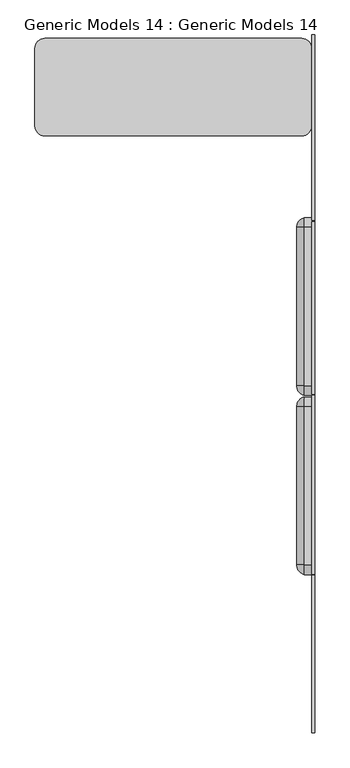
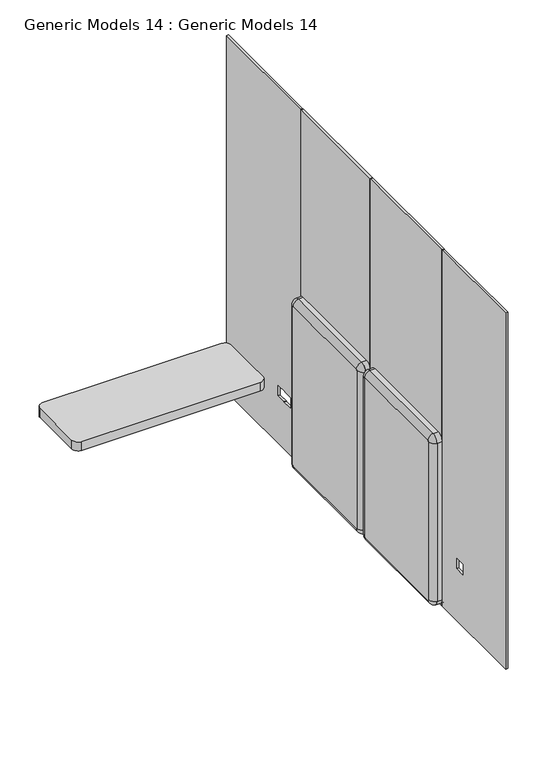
"""IFC4 building model written with IfcOpenShell, lengths in millimetres: proxy geometry, Generic Models 14 : Generic Models 14."""

import ifcopenshell
import ifcopenshell.guid

model = None  # the IFC model being written
_history = None  # IfcOwnerHistory: only IFC2X3 demands one
_inside = {}  # id of a spatial element -> (the spatial element, [elements in it])
_under = {}  # id of a project, library or spatial element -> (it, [spatial elements below it])
_declared = {}  # id of a project -> (the project, [libraries it declares])
_typed = {}  # id of a type object -> (the type object, [elements of that type])
_made_of = {}  # id of a material, layer set ... -> (it, [elements and type objects made of it])


def new_model(schema):
    """Start an empty IFC model of exactly this schema.

    Asked for "IFC4X3", IfcOpenShell would pick the latest addendum, in which some entities
    have other attributes; the version numbers below select the first issue.
    IFC2X3 requires an IfcOwnerHistory on every rooted entity: one is made here for all.
    """
    global model, _history
    if schema == "IFC4X3":
        model = ifcopenshell.file(schema_version=(4, 3, 0, 0))
    else:
        model = ifcopenshell.file(schema=schema)
    _inside.clear()
    _under.clear()
    _declared.clear()
    _typed.clear()
    _made_of.clear()
    _history = None
    if model.schema == "IFC2X3":
        org = make("IfcOrganization", Name="unknown")
        user = make(
            "IfcPersonAndOrganization",
            ThePerson=make("IfcPerson", FamilyName="unknown"),
            TheOrganization=org,
        )
        app = make(
            "IfcApplication",
            ApplicationDeveloper=org,
            Version="unknown",
            ApplicationFullName="unknown",
            ApplicationIdentifier="unknown",
        )
        _history = make(
            "IfcOwnerHistory",
            OwningUser=user,
            OwningApplication=app,
            ChangeAction="ADDED",
            CreationDate=0,
        )
    return model


def make(cls, **values):
    """One entity of the class cls with the attributes given. An attribute that is None is left unset."""
    return model.create_entity(
        cls, **{name: value for name, value in values.items() if value is not None}
    )


def rooted(cls, **values):
    """An entity with a GlobalId (a new one), such as an element, a storey or a relation."""
    return make(cls, GlobalId=ifcopenshell.guid.new(), OwnerHistory=_history, **values)


def si_unit(unit_type, name, prefix=None):
    """IfcSIUnit, for example si_unit("LENGTHUNIT", "METRE", prefix="MILLI")."""
    return make("IfcSIUnit", UnitType=unit_type, Prefix=prefix, Name=name)


def assignment(units):
    """IfcUnitAssignment: the units of a project."""
    return None if units is None else make("IfcUnitAssignment", Units=units)


def point(xyz):
    """IfcCartesianPoint."""
    return None if xyz is None else make("IfcCartesianPoint", Coordinates=xyz)


def direction(xyz):
    """IfcDirection."""
    return None if xyz is None else make("IfcDirection", DirectionRatios=xyz)


def frame(location, z_axis=None, x_axis=None):
    """IfcAxis2Placement3D, a coordinate frame: its origin and axes. An axis left out is left unset."""
    return make(
        "IfcAxis2Placement3D",
        Location=point(location),
        Axis=direction(z_axis),
        RefDirection=direction(x_axis),
    )


def frame_2d(location, x_axis=None):
    """IfcAxis2Placement2D, a coordinate frame in the plane: its origin and x axis."""
    return make(
        "IfcAxis2Placement2D", Location=point(location), RefDirection=direction(x_axis)
    )


def origin():
    """The frame at (0, 0, 0) with its axes left unset."""
    return frame((0.0, 0.0, 0.0))


def origin_with_axes():
    """The frame at (0, 0, 0) with the z axis (0, 0, 1) and the x axis (1, 0, 0) written out."""
    return frame((0.0, 0.0, 0.0), z_axis=(0.0, 0.0, 1.0), x_axis=(1.0, 0.0, 0.0))


def place(relative_to, where):
    """IfcLocalPlacement: puts the frame where relative to a parent placement (None: the world)."""
    return make(
        "IfcLocalPlacement", PlacementRelTo=relative_to, RelativePlacement=where
    )


def context(
    kind, dimensions, precision=None, world=None, true_north=None, identifier=None
):
    """IfcGeometricRepresentationContext, for example the 3D "Model" context."""
    return make(
        "IfcGeometricRepresentationContext",
        ContextIdentifier=identifier,
        ContextType=kind,
        CoordinateSpaceDimension=dimensions,
        Precision=precision,
        WorldCoordinateSystem=world,
        TrueNorth=true_north,
    )


def project(units=None, contexts=None):
    """IfcProject with its units and contexts."""
    return rooted(
        "IfcProject",
        Name="project",
        RepresentationContexts=contexts,
        UnitsInContext=assignment(units),
    )


def spatial(cls, under=None, at=None, **own):
    """A site, building, storey or space (cls), placed at a placement, below another one or the project."""
    s = rooted(cls, ObjectPlacement=at, **own)
    if under is not None:
        _under.setdefault(under.id(), (under, []))[1].append(s)
    return s


def polyline(points):
    """IfcPolyline through the points."""
    return make("IfcPolyline", Points=[point(p) for p in points])


def circle_curve(where, radius):
    """IfcCircle in the frame where."""
    return make("IfcCircle", Position=where, Radius=radius)


def ellipse_curve(where, semi_axis1, semi_axis2):
    """IfcEllipse in the frame where."""
    return make(
        "IfcEllipse", Position=where, SemiAxis1=semi_axis1, SemiAxis2=semi_axis2
    )


def trimmed(basis, trim1, trim2, sense, master):
    """IfcTrimmedCurve: the piece of a basis curve between two trims."""
    return make(
        "IfcTrimmedCurve",
        BasisCurve=basis,
        Trim1=trim1,
        Trim2=trim2,
        SenseAgreement=sense,
        MasterRepresentation=master,
    )


def segment(curve, same_sense, transition):
    """IfcCompositeCurveSegment."""
    return make(
        "IfcCompositeCurveSegment",
        Transition=transition,
        SameSense=same_sense,
        ParentCurve=curve,
    )


def composite_curve(segments, self_intersect=None):
    """IfcCompositeCurve: segments joined end to end."""
    return make("IfcCompositeCurve", Segments=segments, SelfIntersect=self_intersect)


def outline(outer, holes=None, kind="AREA"):
    """IfcArbitraryClosedProfileDef: a profile drawn as a closed curve; with holes, ...WithVoids."""
    if holes is None:
        return make("IfcArbitraryClosedProfileDef", ProfileType=kind, OuterCurve=outer)
    return make(
        "IfcArbitraryProfileDefWithVoids",
        ProfileType=kind,
        OuterCurve=outer,
        InnerCurves=holes,
    )


def extrude(swept, where, along, depth):
    """IfcExtrudedAreaSolid: the profile swept, set in the frame where, extruded along a direction by depth."""
    return make(
        "IfcExtrudedAreaSolid",
        SweptArea=swept,
        Position=where,
        ExtrudedDirection=direction(along),
        Depth=depth,
    )


def shape(context_of_items, identifier, shape_type, items):
    """IfcShapeRepresentation: the items that make up one representation, for example the "Body"."""
    return make(
        "IfcShapeRepresentation",
        ContextOfItems=context_of_items,
        RepresentationIdentifier=identifier,
        RepresentationType=shape_type,
        Items=items,
    )


def source(mapping_origin, context_of_items, identifier, shape_type, items):
    """IfcRepresentationMap: a shape defined once, which mapped items show again and again."""
    return make(
        "IfcRepresentationMap",
        MappingOrigin=mapping_origin,
        MappedRepresentation=shape(context_of_items, identifier, shape_type, items),
    )


def transform(
    local_origin,
    x_axis=None,
    y_axis=None,
    z_axis=None,
    scale=None,
    scale2=None,
    scale3=None,
    uniform=True,
):
    """IfcCartesianTransformationOperator3D, or its non-uniform kind. x_axis, y_axis, z_axis: its Axis1, 2, 3."""
    if uniform:
        return make(
            "IfcCartesianTransformationOperator3D",
            Axis1=direction(x_axis),
            Axis2=direction(y_axis),
            LocalOrigin=point(local_origin),
            Scale=scale,
            Axis3=direction(z_axis),
        )
    return make(
        "IfcCartesianTransformationOperator3DnonUniform",
        Axis1=direction(x_axis),
        Axis2=direction(y_axis),
        LocalOrigin=point(local_origin),
        Scale=scale,
        Axis3=direction(z_axis),
        Scale2=scale2,
        Scale3=scale3,
    )


def mapped(mapping_source, mapping_target):
    """IfcMappedItem: shows the shape of a source again, moved by a transform."""
    return make(
        "IfcMappedItem", MappingSource=mapping_source, MappingTarget=mapping_target
    )


def made_of(thing, what):
    """Note that an element or type object is made of a material, layer set ...; save() writes the relation."""
    if what is not None:
        _made_of.setdefault(what.id(), (what, []))[1].append(thing)
    return thing


def element(
    cls,
    number,
    at=None,
    inside=None,
    cuts=None,
    type_object=None,
    material=None,
    context=None,
    identifier="Body",
    shape_type=None,
    held_by="IfcProductDefinitionShape",
    body=None,
    shapes=None,
    **own,
):
    """One element of the class cls, such as IfcWall. Its Tag is "e" and its number.

    at: its placement. inside: the storey or other place that contains it. cuts: it is an
    opening in that element (IfcRelVoidsElement). A single representation is given by context,
    identifier, shape_type and body (its items); several are given by shapes. held_by: the class
    of the entity that holds the representations. save() writes the other relations.
    """
    e = rooted(cls, Tag="e%d" % number, ObjectPlacement=at, **own)
    if body is not None:
        shapes = [shape(context, identifier, shape_type, body)]
    if shapes is not None:
        e.Representation = make(held_by, Representations=shapes)
    if inside is not None:
        _inside.setdefault(inside.id(), (inside, []))[1].append(e)
    if cuts is not None:
        rooted(
            "IfcRelVoidsElement", RelatingBuildingElement=cuts, RelatedOpeningElement=e
        )
    if type_object is not None:
        _typed.setdefault(type_object.id(), (type_object, []))[1].append(e)
    return made_of(e, material)


def aggregate(whole, parts):
    """IfcRelAggregates: a whole, such as a stair, and the parts it consists of."""
    return rooted("IfcRelAggregates", RelatingObject=whole, RelatedObjects=parts)


def save(model, path):
    """Write the relations noted so far, then the file.

    IfcRelAggregates (storeys below a building ...), IfcRelContainedInSpatialStructure (elements
    in a storey), IfcRelDefinesByType, IfcRelAssociatesMaterial and IfcRelDeclares: one each for
    every whole, place, type object, material and project.
    """
    for whole, parts in _under.values():
        aggregate(whole, parts)
    for where, things in _inside.values():
        rooted(
            "IfcRelContainedInSpatialStructure",
            RelatedElements=things,
            RelatingStructure=where,
        )
    for kind, things in _typed.values():
        rooted("IfcRelDefinesByType", RelatedObjects=things, RelatingType=kind)
    for what, things in _made_of.values():
        rooted("IfcRelAssociatesMaterial", RelatedObjects=things, RelatingMaterial=what)
    for by, libraries in _declared.values():
        rooted("IfcRelDeclares", RelatingContext=by, RelatedDefinitions=libraries)
    model.write(path)


def plane_surface(at):
    """IfcPlane: the flat surface through the origin of the frame at, square to its z axis."""
    return make("IfcPlane", Position=at)


def cylinder_surface(at, radius):
    """IfcCylindricalSurface: all points at the distance radius from the z axis of the frame at."""
    return make("IfcCylindricalSurface", Position=at, Radius=radius)


def revolved_surface(curve, axis_point, axis_direction):
    """IfcSurfaceOfRevolution: the curve turned about the line through axis_point along axis_direction."""
    return make(
        "IfcSurfaceOfRevolution",
        SweptCurve=make("IfcArbitraryOpenProfileDef", ProfileType="CURVE", Curve=curve),
        AxisPosition=make("IfcAxis1Placement", Location=point(axis_point), Axis=direction(axis_direction)),
    )


def advanced_brep(points, edges, surfaces, faces):
    """IfcAdvancedBrep: a solid bounded by faces that lie on surfaces and meet in shared edges.

    An edge is (start, end): straight between two places in points (the first is 0);
    or (start, end, curve); or (start, end, curve, False) where it runs against its curve.
    A face is (place in surfaces, loops), or (place, loops, False) where it looks against
    its surface's normal. A loop lists edges by number (the first is 1), with a minus sign
    where the edge is run from its end to its start. The first loop is the outer one.
    """
    corners = [point(p) for p in points]
    vertices = [make("IfcVertexPoint", VertexGeometry=c) for c in corners]
    made = []
    for start, end, *more in edges:
        made.append(
            make(
                "IfcEdgeCurve",
                EdgeStart=vertices[start],
                EdgeEnd=vertices[end],
                EdgeGeometry=more[0] if more else make("IfcPolyline", Points=[corners[start], corners[end]]),
                SameSense=more[1] if len(more) > 1 else True,
            )
        )
    hull = []
    for where, loops, *sense in faces:
        bounds = []
        for j, loop in enumerate(loops):
            ring = [make("IfcOrientedEdge", EdgeElement=made[abs(k) - 1], Orientation=k > 0) for k in loop]
            bounds.append(
                make(
                    "IfcFaceOuterBound" if j == 0 else "IfcFaceBound",
                    Bound=make("IfcEdgeLoop", EdgeList=ring),
                    Orientation=True,
                )
            )
        hull.append(make("IfcAdvancedFace", Bounds=bounds, FaceSurface=surfaces[where], SameSense=sense[0] if sense else True))
    return make("IfcAdvancedBrep", Outer=make("IfcClosedShell", CfsFaces=hull))


def generic_models_14_generic_models_14_dbd2e497(model_context):
    return source(origin(), model_context, "Body", "SolidModel", [
        extrude(outline(polyline([(94766.0328941, 23901.6588359), (94766.0328941, 24798.7025102), (94782.0328941, 24798.7025102), (94782.0328941, 23901.6588359), (94766.0328941, 23901.6588359)])), origin_with_axes(), (0.0, 0.0, 1.0), 2827.5479286),
        extrude(outline(polyline([(25770.9532724, 0.0), (24807.9391232, 0.0), (24807.9391232, 2827.5479286), (25770.9532724, 2827.5479286), (25770.9532724, 0.0)]), holes=[polyline([(25099.7342947, 376.6474457), (25099.7342947, 457.7974457), (25018.6342947, 457.7974457), (25018.6342947, 455.5963775), (24938.6342947, 455.5963775), (24938.6342947, 374.4463775), (25019.7342947, 374.4463775), (25019.7342947, 376.6474457), (25099.7342947, 376.6474457)])]), frame((94766.0328941, 0.0, 0.0), z_axis=(1.0, 0.0, 0.0), x_axis=(0.0, 1.0, 0.0)), (0.0, 0.0, 1.0), 16.0),
        extrude(outline(composite_curve([segment(trimmed(circle_curve(frame_2d((93377.3040681, 25296.7978403)), 50.0), [point((93377.3040681, 25246.7978403))], [point((93327.3040681, 25296.7978403))], False, "CARTESIAN"), True, "CONTINUOUS"), segment(polyline([(93327.3040681, 25296.7978403), (93327.3040681, 25703.2667766)]), True, "CONTINUOUS"), segment(trimmed(circle_curve(frame_2d((93377.3040681, 25703.2667766)), 50.0), [point((93327.3040681, 25703.2667766))], [point((93377.3040681, 25753.2667766))], False, "CARTESIAN"), True, "CONTINUOUS"), segment(polyline([(93377.3040681, 25753.2667766), (94716.0328941, 25753.2667766)]), True, "CONTINUOUS"), segment(trimmed(circle_curve(frame_2d((94716.0328941, 25703.2667766)), 50.0), [point((94716.0328941, 25753.2667766))], [point((94766.0328941, 25703.2667766))], False, "CARTESIAN"), True, "CONTINUOUS"), segment(polyline([(94766.0328941, 25703.2667766), (94766.0328941, 25296.7978403)]), True, "CONTINUOUS"), segment(trimmed(circle_curve(frame_2d((94716.0328941, 25296.7978403)), 50.0), [point((94766.0328941, 25296.7978403))], [point((94716.0328941, 25246.7978403))], False, "CARTESIAN"), True, "CONTINUOUS"), segment(polyline([(94716.0328941, 25246.7978403), (93377.3040681, 25246.7978403)]), True, "CONTINUOUS")], self_intersect=False)), frame((0.0, 0.0, 340.3241263), z_axis=(0.0, 0.0, 1.0), x_axis=(1.0, 0.0, 0.0)), (0.0, 0.0, 1.0), 70.0724238),
        advanced_brep(
        [(94688.2036617, 23009.5673045, 1305.7015947), (94688.2036617, 23014.6751633, 1310.8094535), (94688.2036617, 23837.7584799, 1310.8094535), (94688.2036617, 23842.8663387, 1305.7015947), (94688.2036617, 23842.8663387, 50.0), (94688.2036617, 23837.7584799, 44.8921412), (94688.2036617, 23014.6751633, 44.8921412), (94688.2036617, 23009.5673045, 50.0), (94782.0328941, 23014.6751633, 1355.7015947), (94782.0328941, 22964.6751633, 1305.7015947), (94782.0328941, 22964.6751633, 50.0), (94782.0328941, 23014.6751633, 0.0), (94782.0328941, 23837.7584799, 0.0), (94782.0328941, 23887.7584799, 50.0), (94782.0328941, 23887.7584799, 1305.7015947), (94782.0328941, 23837.7584799, 1355.7015947), (94728.2036617, 23837.7584799, 1355.7015947), (94728.2036617, 23014.6751633, 1355.7015947), (94728.2036617, 23887.7584799, 50.0), (94728.2036617, 23887.7584799, 1305.7015947), (94728.2036617, 23014.6751633, 0.0), (94728.2036617, 23837.7584799, 0.0), (94728.2036617, 22964.6751633, 1305.7015947), (94728.2036617, 22964.6751633, 50.0)],
        [
            (0, 1, circle_curve(frame((94688.2036617, 23014.6751633, 1305.7015947), z_axis=(-1.0, 0.0, 0.0), x_axis=(0.0, -1.0, 0.0)), 5.1078588)),
            (1, 2),
            (2, 3, circle_curve(frame((94688.2036617, 23837.7584799, 1305.7015947), z_axis=(-1.0, 0.0, 0.0), x_axis=(0.0, 0.0, 1.0)), 5.1078588)),
            (3, 4),
            (4, 5, circle_curve(frame((94688.2036617, 23837.7584799, 50.0), z_axis=(-1.0, 0.0, 0.0), x_axis=(0.0, 1.0, 0.0)), 5.1078588)),
            (5, 6),
            (6, 7, circle_curve(frame((94688.2036617, 23014.6751633, 50.0), z_axis=(-1.0, 0.0, 0.0), x_axis=(0.0, 0.0, -1.0)), 5.1078588)),
            (7, 0),
            (8, 9, circle_curve(frame((94782.0328941, 23014.6751633, 1305.7015947), z_axis=(1.0, 0.0, 0.0), x_axis=(0.0, -1.0, 0.0)), 50.0)),
            (9, 10),
            (10, 11, circle_curve(frame((94782.0328941, 23014.6751633, 50.0), z_axis=(1.0, 0.0, 0.0), x_axis=(0.0, -1.0, 0.0)), 50.0)),
            (11, 12),
            (12, 13, circle_curve(frame((94782.0328941, 23837.7584799, 50.0), z_axis=(1.0, 0.0, 0.0), x_axis=(0.0, -1.0, 0.0)), 50.0)),
            (13, 14),
            (14, 15, circle_curve(frame((94782.0328941, 23837.7584799, 1305.7015947), z_axis=(1.0, 0.0, 0.0), x_axis=(0.0, -1.0, 0.0)), 50.0)),
            (15, 8),
            (15, 16),
            (16, 17),
            (17, 8),
            (13, 18),
            (18, 19),
            (19, 14),
            (11, 20),
            (20, 21),
            (21, 12),
            (9, 22),
            (22, 23),
            (23, 10),
            (19, 16, circle_curve(frame((94728.2036617, 23837.7584799, 1305.7015947), z_axis=(1.0, 0.0, 0.0), x_axis=(0.0, -1.0, 0.0)), 50.0)),
            (21, 18, circle_curve(frame((94728.2036617, 23837.7584799, 50.0), z_axis=(1.0, 0.0, 0.0), x_axis=(0.0, -1.0, 0.0)), 50.0)),
            (23, 20, circle_curve(frame((94728.2036617, 23014.6751633, 50.0), z_axis=(1.0, 0.0, 0.0), x_axis=(0.0, -1.0, 0.0)), 50.0)),
            (17, 22, circle_curve(frame((94728.2036617, 23014.6751633, 1305.7015947), z_axis=(1.0, 0.0, 0.0), x_axis=(0.0, -1.0, 0.0)), 50.0)),
            (17, 1, circle_curve(frame((94740.2599727, 23014.6751633, 1304.692564), z_axis=(0.0, -1.0, 0.0), x_axis=(0.0, 0.0, -1.0)), 52.4144623)),
            (0, 22, circle_curve(frame((94740.2599727, 23015.684194, 1305.7015947), z_axis=(0.0, 0.0, 1.0), x_axis=(0.0, 1.0, 0.0)), 52.4144623)),
            (16, 2, circle_curve(frame((94740.2599727, 23837.7584799, 1304.692564), z_axis=(0.0, -1.0, 0.0), x_axis=(0.0, 0.0, -1.0)), 52.4144623)),
            (19, 3, circle_curve(frame((94740.2599727, 23836.7494491, 1305.7015947), z_axis=(0.0, 0.0, 1.0), x_axis=(0.0, -1.0, 0.0)), 52.4144623)),
            (18, 4, circle_curve(frame((94740.2599727, 23836.7494491, 50.0), z_axis=(0.0, 0.0, 1.0), x_axis=(0.0, -1.0, 0.0)), 52.4144623)),
            (21, 5, circle_curve(frame((94740.2599727, 23837.7584799, 51.0090308), z_axis=(0.0, 1.0, 0.0), x_axis=(0.0, 0.0, 1.0)), 52.4144623)),
            (20, 6, circle_curve(frame((94740.2599727, 23014.6751633, 51.0090308), z_axis=(0.0, 1.0, 0.0), x_axis=(0.0, 0.0, 1.0)), 52.4144623)),
            (23, 7, circle_curve(frame((94740.2599727, 23015.684194, 50.0), z_axis=(0.0, 0.0, -1.0), x_axis=(0.0, 1.0, 0.0)), 52.4144623)),
        ],
        [
            plane_surface(frame((94688.2036617, 23265.7881037, 1355.7015947), z_axis=(-1.0, 0.0, 0.0), x_axis=(0.0, 1.0, 0.0))),
            plane_surface(frame((94782.0328941, 23265.7881037, 1355.7015947), z_axis=(1.0, 0.0, 0.0), x_axis=(0.0, -1.0, 0.0))),
            plane_surface(frame((94688.2036617, 23014.6751633, 1355.7015947), z_axis=(0.0, 0.0, 1.0), x_axis=(1.0, 0.0, 0.0))),
            plane_surface(frame((94688.2036617, 23887.7584799, 1305.7015947), z_axis=(0.0, 1.0, 0.0), x_axis=(1.0, 0.0, 0.0))),
            plane_surface(frame((94688.2036617, 23837.7584799, 0.0), z_axis=(0.0, 0.0, -1.0), x_axis=(1.0, 0.0, 0.0))),
            plane_surface(frame((94688.2036617, 22964.6751633, 50.0), z_axis=(0.0, -1.0, 0.0), x_axis=(1.0, 0.0, 0.0))),
            cylinder_surface(frame((94782.0328941, 23837.7584799, 1305.7015947), z_axis=(-1.0, 0.0, 0.0), x_axis=(0.0, -1.0, 0.0)), 50.0),
            cylinder_surface(frame((94782.0328941, 23837.7584799, 50.0), z_axis=(-1.0, 0.0, 0.0), x_axis=(0.0, -1.0, 0.0)), 50.0),
            cylinder_surface(frame((94782.0328941, 23014.6751633, 50.0), z_axis=(-1.0, 0.0, 0.0), x_axis=(0.0, -1.0, 0.0)), 50.0),
            cylinder_surface(frame((94782.0328941, 23014.6751633, 1305.7015947), z_axis=(-1.0, 0.0, 0.0), x_axis=(0.0, -1.0, 0.0)), 50.0),
            revolved_surface(trimmed(ellipse_curve(frame((94740.2599727, 23015.684194, 1305.7015947), z_axis=(0.0, 0.0, -1.0), x_axis=(0.0, 1.0, 0.0)), 52.4144623, 52.4144623), [point((94728.2036617, 22964.6751633, 1305.7015947))], [point((94688.2036617, 23009.5673045, 1305.7015947))], True, "CARTESIAN"), (94688.2036617, 23014.6751633, 1305.7015947), (-1.0, 0.0, 0.0)),
            cylinder_surface(frame((94740.2599727, 23014.6751633, 1304.692564), z_axis=(0.0, 1.0, 0.0), x_axis=(0.0, 0.0, -1.0)), 52.4144623),
            revolved_surface(trimmed(ellipse_curve(frame((94740.2599727, 23837.7584799, 1304.692564), z_axis=(0.0, -1.0, 0.0), x_axis=(0.0, 0.0, -1.0)), 52.4144623, 52.4144623), [point((94728.2036617, 23837.7584799, 1355.7015947))], [point((94688.2036617, 23837.7584799, 1310.8094535))], True, "CARTESIAN"), (94688.2036617, 23837.7584799, 1305.7015947), (-1.0, 0.0, 0.0)),
            cylinder_surface(frame((94740.2599727, 23836.7494491, 1305.7015947), z_axis=(0.0, 0.0, -1.0), x_axis=(0.0, -1.0, 0.0)), 52.4144623),
            revolved_surface(trimmed(ellipse_curve(frame((94740.2599727, 23836.7494491, 50.0), z_axis=(0.0, 0.0, 1.0), x_axis=(0.0, -1.0, 0.0)), 52.4144623, 52.4144623), [point((94728.2036617, 23887.7584799, 50.0))], [point((94688.2036617, 23842.8663387, 50.0))], True, "CARTESIAN"), (94688.2036617, 23837.7584799, 50.0), (-1.0, 0.0, 0.0)),
            cylinder_surface(frame((94740.2599727, 23837.7584799, 51.0090308), z_axis=(0.0, -1.0, 0.0), x_axis=(0.0, 0.0, 1.0)), 52.4144623),
            revolved_surface(trimmed(ellipse_curve(frame((94740.2599727, 23014.6751633, 51.0090308), z_axis=(0.0, 1.0, 0.0), x_axis=(0.0, 0.0, 1.0)), 52.4144623, 52.4144623), [point((94728.2036617, 23014.6751633, 0.0))], [point((94688.2036617, 23014.6751633, 44.8921412))], True, "CARTESIAN"), (94688.2036617, 23014.6751633, 50.0), (-1.0, 0.0, 0.0)),
            cylinder_surface(frame((94740.2599727, 23015.684194, 50.0), z_axis=(0.0, 0.0, 1.0), x_axis=(0.0, 1.0, 0.0)), 52.4144623),
        ],
        [
            (0, [[1, 2, 3, 4, 5, 6, 7, 8]]),
            (1, [[9, 10, 11, 12, 13, 14, 15, 16]]),
            (2, [[-16, 17, 18, 19]]),
            (3, [[-14, 20, 21, 22]]),
            (4, [[-12, 23, 24, 25]]),
            (5, [[-10, 26, 27, 28]]),
            (6, [[-15, -22, 29, -17]]),
            (7, [[-13, -25, 30, -20]]),
            (8, [[-11, -28, 31, -23]]),
            (9, [[-9, -19, 32, -26]]),
            (10, [[33, -1, 34, -32]]),
            (11, [[-33, -18, 35, -2]]),
            (12, [[-35, -29, 36, -3]]),
            (13, [[-36, -21, 37, -4]]),
            (14, [[-37, -30, 38, -5]]),
            (15, [[-38, -24, 39, -6]]),
            (16, [[-39, -31, 40, -7]]),
            (17, [[-34, -8, -40, -27]]),
        ],
    ),
        advanced_brep(
        [(94688.2036617, 23941.5509771, 1305.7015947), (94688.2036617, 23946.6588359, 1310.8094535), (94688.2036617, 24769.7421525, 1310.8094535), (94688.2036617, 24774.8500113, 1305.7015947), (94688.2036617, 24774.8500113, 50.0), (94688.2036617, 24769.7421525, 44.8921412), (94688.2036617, 23946.6588359, 44.8921412), (94688.2036617, 23941.5509771, 50.0), (94782.0328941, 23946.6588359, 1355.7015947), (94782.0328941, 23896.6588359, 1305.7015947), (94782.0328941, 23896.6588359, 50.0), (94782.0328941, 23946.6588359, 0.0), (94782.0328941, 24769.7421525, 0.0), (94782.0328941, 24819.7421525, 50.0), (94782.0328941, 24819.7421525, 1305.7015947), (94782.0328941, 24769.7421525, 1355.7015947), (94728.2036617, 24769.7421525, 1355.7015947), (94728.2036617, 23946.6588359, 1355.7015947), (94728.2036617, 24819.7421525, 50.0), (94728.2036617, 24819.7421525, 1305.7015947), (94728.2036617, 23946.6588359, 0.0), (94728.2036617, 24769.7421525, 0.0), (94728.2036617, 23896.6588359, 1305.7015947), (94728.2036617, 23896.6588359, 50.0)],
        [
            (0, 1, circle_curve(frame((94688.2036617, 23946.6588359, 1305.7015947), z_axis=(-1.0, 0.0, 0.0), x_axis=(0.0, -1.0, 0.0)), 5.1078588)),
            (1, 2),
            (2, 3, circle_curve(frame((94688.2036617, 24769.7421525, 1305.7015947), z_axis=(-1.0, 0.0, 0.0), x_axis=(0.0, 0.0, 1.0)), 5.1078588)),
            (3, 4),
            (4, 5, circle_curve(frame((94688.2036617, 24769.7421525, 50.0), z_axis=(-1.0, 0.0, 0.0), x_axis=(0.0, 1.0, 0.0)), 5.1078588)),
            (5, 6),
            (6, 7, circle_curve(frame((94688.2036617, 23946.6588359, 50.0), z_axis=(-1.0, 0.0, 0.0), x_axis=(0.0, 0.0, -1.0)), 5.1078588)),
            (7, 0),
            (8, 9, circle_curve(frame((94782.0328941, 23946.6588359, 1305.7015947), z_axis=(1.0, 0.0, 0.0), x_axis=(0.0, -1.0, 0.0)), 50.0)),
            (9, 10),
            (10, 11, circle_curve(frame((94782.0328941, 23946.6588359, 50.0), z_axis=(1.0, 0.0, 0.0), x_axis=(0.0, -1.0, 0.0)), 50.0)),
            (11, 12),
            (12, 13, circle_curve(frame((94782.0328941, 24769.7421525, 50.0), z_axis=(1.0, 0.0, 0.0), x_axis=(0.0, -1.0, 0.0)), 50.0)),
            (13, 14),
            (14, 15, circle_curve(frame((94782.0328941, 24769.7421525, 1305.7015947), z_axis=(1.0, 0.0, 0.0), x_axis=(0.0, -1.0, 0.0)), 50.0)),
            (15, 8),
            (15, 16),
            (16, 17),
            (17, 8),
            (13, 18),
            (18, 19),
            (19, 14),
            (11, 20),
            (20, 21),
            (21, 12),
            (9, 22),
            (22, 23),
            (23, 10),
            (19, 16, circle_curve(frame((94728.2036617, 24769.7421525, 1305.7015947), z_axis=(1.0, 0.0, 0.0), x_axis=(0.0, -1.0, 0.0)), 50.0)),
            (21, 18, circle_curve(frame((94728.2036617, 24769.7421525, 50.0), z_axis=(1.0, 0.0, 0.0), x_axis=(0.0, -1.0, 0.0)), 50.0)),
            (23, 20, circle_curve(frame((94728.2036617, 23946.6588359, 50.0), z_axis=(1.0, 0.0, 0.0), x_axis=(0.0, -1.0, 0.0)), 50.0)),
            (17, 22, circle_curve(frame((94728.2036617, 23946.6588359, 1305.7015947), z_axis=(1.0, 0.0, 0.0), x_axis=(0.0, -1.0, 0.0)), 50.0)),
            (17, 1, circle_curve(frame((94740.2599727, 23946.6588359, 1304.692564), z_axis=(0.0, -1.0, 0.0), x_axis=(0.0, 0.0, -1.0)), 52.4144623)),
            (0, 22, circle_curve(frame((94740.2599727, 23947.6678667, 1305.7015947), z_axis=(0.0, 0.0, 1.0), x_axis=(0.0, 1.0, 0.0)), 52.4144623)),
            (16, 2, circle_curve(frame((94740.2599727, 24769.7421525, 1304.692564), z_axis=(0.0, -1.0, 0.0), x_axis=(0.0, 0.0, -1.0)), 52.4144623)),
            (19, 3, circle_curve(frame((94740.2599727, 24768.7331218, 1305.7015947), z_axis=(0.0, 0.0, 1.0), x_axis=(0.0, -1.0, 0.0)), 52.4144623)),
            (18, 4, circle_curve(frame((94740.2599727, 24768.7331218, 50.0), z_axis=(0.0, 0.0, 1.0), x_axis=(0.0, -1.0, 0.0)), 52.4144623)),
            (21, 5, circle_curve(frame((94740.2599727, 24769.7421525, 51.0090308), z_axis=(0.0, 1.0, 0.0), x_axis=(0.0, 0.0, 1.0)), 52.4144623)),
            (20, 6, circle_curve(frame((94740.2599727, 23946.6588359, 51.0090308), z_axis=(0.0, 1.0, 0.0), x_axis=(0.0, 0.0, 1.0)), 52.4144623)),
            (23, 7, circle_curve(frame((94740.2599727, 23947.6678667, 50.0), z_axis=(0.0, 0.0, -1.0), x_axis=(0.0, 1.0, 0.0)), 52.4144623)),
        ],
        [
            plane_surface(frame((94688.2036617, 24197.7717763, 1355.7015947), z_axis=(-1.0, 0.0, 0.0), x_axis=(0.0, 1.0, 0.0))),
            plane_surface(frame((94782.0328941, 24197.7717763, 1355.7015947), z_axis=(1.0, 0.0, 0.0), x_axis=(0.0, -1.0, 0.0))),
            plane_surface(frame((94688.2036617, 23946.6588359, 1355.7015947), z_axis=(0.0, 0.0, 1.0), x_axis=(1.0, 0.0, 0.0))),
            plane_surface(frame((94688.2036617, 24819.7421525, 1305.7015947), z_axis=(0.0, 1.0, 0.0), x_axis=(1.0, 0.0, 0.0))),
            plane_surface(frame((94688.2036617, 24769.7421525, 0.0), z_axis=(0.0, 0.0, -1.0), x_axis=(1.0, 0.0, 0.0))),
            plane_surface(frame((94688.2036617, 23896.6588359, 50.0), z_axis=(0.0, -1.0, 0.0), x_axis=(1.0, 0.0, 0.0))),
            cylinder_surface(frame((94782.0328941, 24769.7421525, 1305.7015947), z_axis=(-1.0, 0.0, 0.0), x_axis=(0.0, -1.0, 0.0)), 50.0),
            cylinder_surface(frame((94782.0328941, 24769.7421525, 50.0), z_axis=(-1.0, 0.0, 0.0), x_axis=(0.0, -1.0, 0.0)), 50.0),
            cylinder_surface(frame((94782.0328941, 23946.6588359, 50.0), z_axis=(-1.0, 0.0, 0.0), x_axis=(0.0, -1.0, 0.0)), 50.0),
            cylinder_surface(frame((94782.0328941, 23946.6588359, 1305.7015947), z_axis=(-1.0, 0.0, 0.0), x_axis=(0.0, -1.0, 0.0)), 50.0),
            revolved_surface(trimmed(ellipse_curve(frame((94740.2599727, 23947.6678667, 1305.7015947), z_axis=(0.0, 0.0, -1.0), x_axis=(0.0, 1.0, 0.0)), 52.4144623, 52.4144623), [point((94728.2036617, 23896.6588359, 1305.7015947))], [point((94688.2036617, 23941.5509771, 1305.7015947))], True, "CARTESIAN"), (94688.2036617, 23946.6588359, 1305.7015947), (-1.0, 0.0, 0.0)),
            cylinder_surface(frame((94740.2599727, 23946.6588359, 1304.692564), z_axis=(0.0, 1.0, 0.0), x_axis=(0.0, 0.0, -1.0)), 52.4144623),
            revolved_surface(trimmed(ellipse_curve(frame((94740.2599727, 24769.7421525, 1304.692564), z_axis=(0.0, -1.0, 0.0), x_axis=(0.0, 0.0, -1.0)), 52.4144623, 52.4144623), [point((94728.2036617, 24769.7421525, 1355.7015947))], [point((94688.2036617, 24769.7421525, 1310.8094535))], True, "CARTESIAN"), (94688.2036617, 24769.7421525, 1305.7015947), (-1.0, 0.0, 0.0)),
            cylinder_surface(frame((94740.2599727, 24768.7331218, 1305.7015947), z_axis=(0.0, 0.0, -1.0), x_axis=(0.0, -1.0, 0.0)), 52.4144623),
            revolved_surface(trimmed(ellipse_curve(frame((94740.2599727, 24768.7331218, 50.0), z_axis=(0.0, 0.0, 1.0), x_axis=(0.0, -1.0, 0.0)), 52.4144623, 52.4144623), [point((94728.2036617, 24819.7421525, 50.0))], [point((94688.2036617, 24774.8500113, 50.0))], True, "CARTESIAN"), (94688.2036617, 24769.7421525, 50.0), (-1.0, 0.0, 0.0)),
            cylinder_surface(frame((94740.2599727, 24769.7421525, 51.0090308), z_axis=(0.0, -1.0, 0.0), x_axis=(0.0, 0.0, 1.0)), 52.4144623),
            revolved_surface(trimmed(ellipse_curve(frame((94740.2599727, 23946.6588359, 51.0090308), z_axis=(0.0, 1.0, 0.0), x_axis=(0.0, 0.0, 1.0)), 52.4144623, 52.4144623), [point((94728.2036617, 23946.6588359, 0.0))], [point((94688.2036617, 23946.6588359, 44.8921412))], True, "CARTESIAN"), (94688.2036617, 23946.6588359, 50.0), (-1.0, 0.0, 0.0)),
            cylinder_surface(frame((94740.2599727, 23947.6678667, 50.0), z_axis=(0.0, 0.0, 1.0), x_axis=(0.0, 1.0, 0.0)), 52.4144623),
        ],
        [
            (0, [[1, 2, 3, 4, 5, 6, 7, 8]]),
            (1, [[9, 10, 11, 12, 13, 14, 15, 16]]),
            (2, [[-16, 17, 18, 19]]),
            (3, [[-14, 20, 21, 22]]),
            (4, [[-12, 23, 24, 25]]),
            (5, [[-10, 26, 27, 28]]),
            (6, [[-15, -22, 29, -17]]),
            (7, [[-13, -25, 30, -20]]),
            (8, [[-11, -28, 31, -23]]),
            (9, [[-9, -19, 32, -26]]),
            (10, [[33, -1, 34, -32]]),
            (11, [[-33, -18, 35, -2]]),
            (12, [[-35, -29, 36, -3]]),
            (13, [[-36, -21, 37, -4]]),
            (14, [[-37, -30, 38, -5]]),
            (15, [[-38, -24, 39, -6]]),
            (16, [[-39, -31, 40, -7]]),
            (17, [[-34, -8, -40, -27]]),
        ],
    ),
        extrude(outline(polyline([(22961.7337125, 0.0), (22140.1733071, 0.0), (22140.1733071, 2827.5479286), (22961.7337125, 2827.5479286), (22961.7337125, 0.0)]), holes=[polyline([(22776.4733453, 413.3268699), (22776.4733453, 494.4768699), (22695.3733453, 494.4768699), (22695.3733453, 413.3268699), (22776.4733453, 413.3268699)])]), frame((94766.0328941, 0.0, 0.0), z_axis=(1.0, 0.0, 0.0), x_axis=(0.0, 1.0, 0.0)), (0.0, 0.0, 1.0), 16.0),
        extrude(outline(polyline([(94766.0328941, 22966.5370677), (94766.0328941, 23896.6588359), (94782.0328941, 23896.6588359), (94782.0328941, 22966.5370677), (94766.0328941, 22966.5370677)])), origin_with_axes(), (0.0, 0.0, 1.0), 2827.5479286),
    ])


if __name__ == "__main__":
    model = new_model("IFC4")
    model_context = context("Model", 3, world=origin())
    ifc_project = project(units=[si_unit("LENGTHUNIT", "METRE", prefix="MILLI")], contexts=[model_context])
    site = spatial("IfcSite", under=ifc_project)
    building = spatial("IfcBuilding", under=site)
    placement = place(None, origin())
    generic_models_14_generic_models_14_shape = generic_models_14_generic_models_14_dbd2e497(model_context)
    element("IfcBuildingElementProxy", 1, Name="Generic Models 14 : Generic Models 14", ObjectType="Generic Models 14 : Generic Models 14", at=placement, inside=building, context=model_context, shape_type="MappedRepresentation", body=[
        mapped(generic_models_14_generic_models_14_shape, transform((0.0, 0.0, 0.0), x_axis=(1.0, 0.0, 0.0), y_axis=(0.0, 1.0, 0.0), z_axis=(0.0, 0.0, 1.0))),
    ])
    save(model, "model.ifc")
